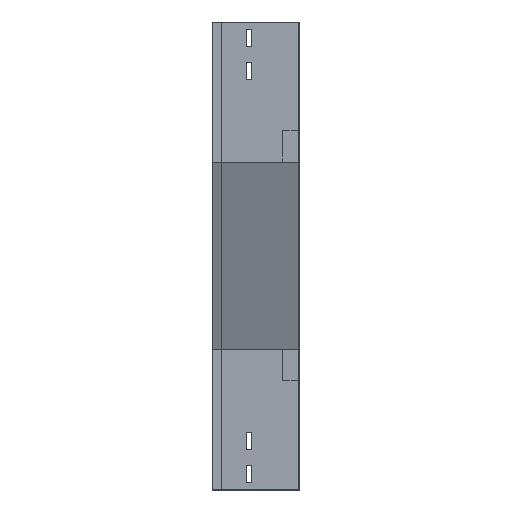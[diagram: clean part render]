
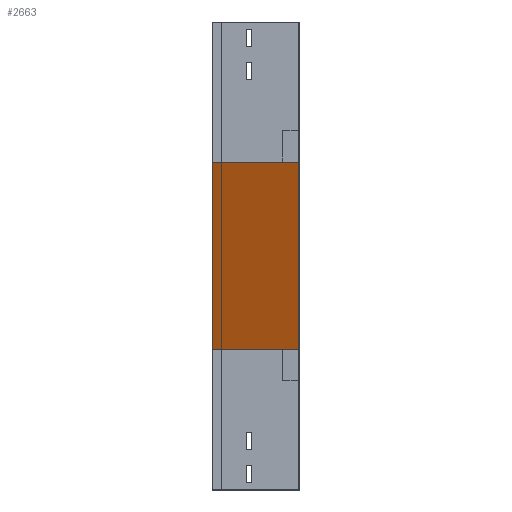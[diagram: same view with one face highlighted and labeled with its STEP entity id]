
A CAD part, left-side view. The second image highlights one B-rep face of the part: STEP entity #2663.
In plain terms, the highlighted planar face has unit normal (-0.923, 0, -0.385).
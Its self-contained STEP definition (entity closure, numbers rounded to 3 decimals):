
#46 = PLANE ( 'NONE',  #2471 ) ;
#208 = VERTEX_POINT ( 'NONE', #1732 ) ;
#233 = DIRECTION ( 'NONE',  ( 0.385, 0., -0.923 ) ) ;
#290 = VERTEX_POINT ( 'NONE', #2955 ) ;
#308 = FACE_OUTER_BOUND ( 'NONE', #510, .T. ) ;
#510 = EDGE_LOOP ( 'NONE', ( #2755, #2584, #1922, #1423 ) ) ;
#896 = CARTESIAN_POINT ( 'NONE',  ( 0., 112.5, -180. ) ) ;
#1188 = CARTESIAN_POINT ( 'NONE',  ( 0., 0., -180. ) ) ;
#1296 = CARTESIAN_POINT ( 'NONE',  ( 100., 112.5, -420. ) ) ;
#1423 = ORIENTED_EDGE ( 'NONE', *, *, #1491, .F. ) ;
#1485 = VECTOR ( 'NONE', #1967, 1000. ) ;
#1491 = EDGE_CURVE ( 'NONE', #2706, #2259, #2626, .T. ) ;
#1533 = DIRECTION ( 'NONE',  ( 0., 1., 0. ) ) ;
#1680 = CARTESIAN_POINT ( 'NONE',  ( 0., 0., -180. ) ) ;
#1732 = CARTESIAN_POINT ( 'NONE',  ( 0., 0., -180. ) ) ;
#1773 = CARTESIAN_POINT ( 'NONE',  ( 100., 0., -420. ) ) ;
#1922 = ORIENTED_EDGE ( 'NONE', *, *, #2744, .T. ) ;
#1967 = DIRECTION ( 'NONE',  ( 0.385, 0., -0.923 ) ) ;
#1997 = EDGE_CURVE ( 'NONE', #208, #2706, #3263, .T. ) ;
#2024 = DIRECTION ( 'NONE',  ( 0.385, 0., -0.923 ) ) ;
#2222 = EDGE_CURVE ( 'NONE', #290, #208, #2764, .T. ) ;
#2259 = VERTEX_POINT ( 'NONE', #1296 ) ;
#2303 = VECTOR ( 'NONE', #3413, 1000. ) ;
#2471 = AXIS2_PLACEMENT_3D ( 'NONE', #1188, #3080, #2024 ) ;
#2479 = CARTESIAN_POINT ( 'NONE',  ( 0., 0., -180. ) ) ;
#2583 = VECTOR ( 'NONE', #1533, 1000. ) ;
#2584 = ORIENTED_EDGE ( 'NONE', *, *, #2222, .F. ) ;
#2626 = LINE ( 'NONE', #1773, #2583 ) ;
#2663 = ADVANCED_FACE ( 'NONE', ( #308 ), #46, .F. ) ;
#2706 = VERTEX_POINT ( 'NONE', #3387 ) ;
#2744 = EDGE_CURVE ( 'NONE', #290, #2259, #3411, .T. ) ;
#2755 = ORIENTED_EDGE ( 'NONE', *, *, #1997, .F. ) ;
#2764 = LINE ( 'NONE', #1680, #2303 ) ;
#2818 = VECTOR ( 'NONE', #233, 1000. ) ;
#2955 = CARTESIAN_POINT ( 'NONE',  ( 0., 112.5, -180. ) ) ;
#3080 = DIRECTION ( 'NONE',  ( 0.923, 0., 0.385 ) ) ;
#3263 = LINE ( 'NONE', #2479, #2818 ) ;
#3387 = CARTESIAN_POINT ( 'NONE',  ( 100., 0., -420. ) ) ;
#3411 = LINE ( 'NONE', #896, #1485 ) ;
#3413 = DIRECTION ( 'NONE',  ( 0., -1., 0. ) ) ;
